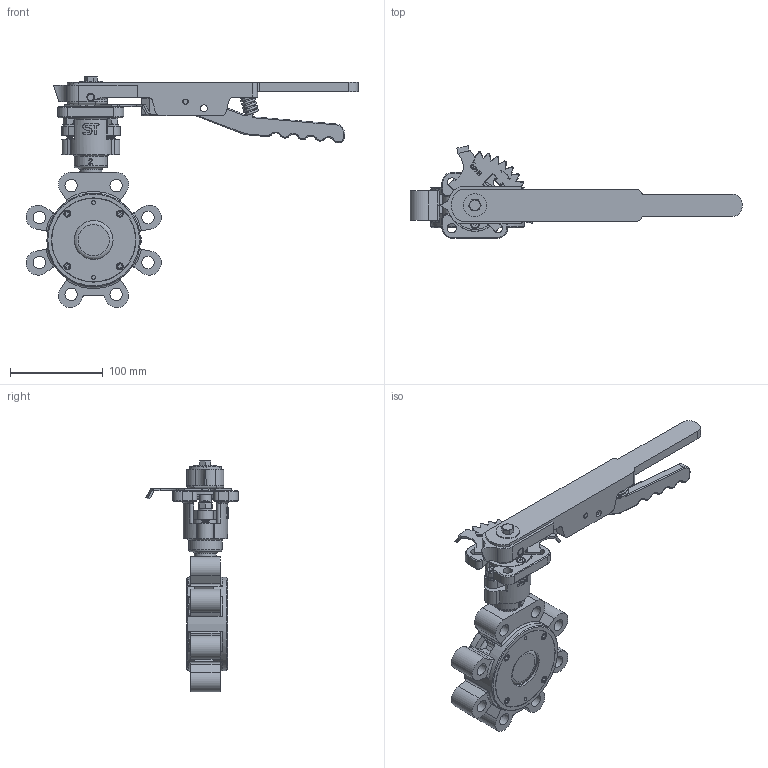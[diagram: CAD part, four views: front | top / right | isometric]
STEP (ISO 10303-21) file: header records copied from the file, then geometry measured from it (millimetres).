
FILE_DESCRIPTION(('Open CASCADE Model'),'2;1');
FILE_NAME('Open CASCADE Shape Model','2023-08-15T10:28:14',('Author'),( 'Open CASCADE'),'Open CASCADE STEP processor 7.3','Open CASCADE 7.3' ,'Unknown');
FILE_SCHEMA(('AUTOMOTIVE_DESIGN { 1 0 10303 214 1 1 1 1 }'));
Length unit declared in the file: millimetre
Products named in the file (36): Open CASCADE STEP translator 7.3 1; Open CASCADE STEP translator 7.3 1.1; Open CASCADE STEP translator 7.3 1.2; Open CASCADE STEP translator 7.3 1.3; Open CASCADE STEP translator 7.3 1.4; Open CASCADE STEP translator 7.3 1.5; Open CASCADE STEP translator 7.3 1.6; Open CASCADE STEP translator 7.3 1.7; Open CASCADE STEP translator 7.3 1.8; Open CASCADE STEP translator 7.3 1.9; Open CASCADE STEP translator 7.3 1.10; Open CASCADE STEP translator 7.3 1.11; Open CASCADE STEP translator 7.3 1.12; Open CASCADE STEP translator 7.3 1.13; Open CASCADE STEP translator 7.3 1.14; Open CASCADE STEP translator 7.3 1.15; Open CASCADE STEP translator 7.3 1.16; Open CASCADE STEP translator 7.3 1.17; Open CASCADE STEP translator 7.3 1.18; Open CASCADE STEP translator 7.3 1.19; Open CASCADE STEP translator 7.3 1.20; Open CASCADE STEP translator 7.3 1.21; Open CASCADE STEP translator 7.3 1.22; Open CASCADE STEP translator 7.3 1.23; Open CASCADE STEP translator 7.3 1.24; Open CASCADE STEP translator 7.3 1.25; Open CASCADE STEP translator 7.3 1.26; Open CASCADE STEP translator 7.3 1.27; Open CASCADE STEP translator 7.3 1.28; Open CASCADE STEP translator 7.3 1.29; Open CASCADE STEP translator 7.3 1.30; Open CASCADE STEP translator 7.3 1.31; Open CASCADE STEP translator 7.3 1.32; Open CASCADE STEP translator 7.3 1.33; Open CASCADE STEP translator 7.3 1.34; Open CASCADE STEP translator 7.3 1.35
Assembly tree (35 placements, depth 2):
  Open CASCADE STEP translator 7.3 1
    Open CASCADE STEP translator 7.3 1.1
    Open CASCADE STEP translator 7.3 1.2
    Open CASCADE STEP translator 7.3 1.3
    Open CASCADE STEP translator 7.3 1.4
    Open CASCADE STEP translator 7.3 1.5
    Open CASCADE STEP translator 7.3 1.6
    Open CASCADE STEP translator 7.3 1.7
    Open CASCADE STEP translator 7.3 1.8
    Open CASCADE STEP translator 7.3 1.9
    Open CASCADE STEP translator 7.3 1.10
    Open CASCADE STEP translator 7.3 1.11
    Open CASCADE STEP translator 7.3 1.12
    Open CASCADE STEP translator 7.3 1.13
    Open CASCADE STEP translator 7.3 1.14
    Open CASCADE STEP translator 7.3 1.15
    Open CASCADE STEP translator 7.3 1.16
    Open CASCADE STEP translator 7.3 1.17
    Open CASCADE STEP translator 7.3 1.18
    Open CASCADE STEP translator 7.3 1.19
    Open CASCADE STEP translator 7.3 1.20
    Open CASCADE STEP translator 7.3 1.21
    Open CASCADE STEP translator 7.3 1.22
    Open CASCADE STEP translator 7.3 1.23
    Open CASCADE STEP translator 7.3 1.24
    Open CASCADE STEP translator 7.3 1.25
    Open CASCADE STEP translator 7.3 1.26
    Open CASCADE STEP translator 7.3 1.27
    Open CASCADE STEP translator 7.3 1.28
    Open CASCADE STEP translator 7.3 1.29
    Open CASCADE STEP translator 7.3 1.30
    Open CASCADE STEP translator 7.3 1.31
    Open CASCADE STEP translator 7.3 1.32
    Open CASCADE STEP translator 7.3 1.33
    Open CASCADE STEP translator 7.3 1.34
    Open CASCADE STEP translator 7.3 1.35
Bounding box: 358.56 x 99.87 x 249.85 mm (x, y, z)
Volume: 696618.4 mm3; surface area: 242004 mm2
Topology: 35 solids, 35 shells, 1218 faces, 2891 edges, 1804 vertices
Faces by surface type: plane 531, cylinder 364, cone 155, torus 113, bspline 40, sphere 15
Full cylindrical faces by diameter (mm): 4.134 x2, 4.2 x2, 4.5 x8, 4.917 x1, 5 x2, 6 x7, 7 x4, 7.5 x7, 8 x10, 10 x10, 13 x6, 13.3 x1, 13.376 x8, 13.5 x1, 14 x1, 14.6 x2, 24 x1, 25 x1, 27.6 x2, 28 x4, 36 x1, 42 x1, 46 x1, 47.4 x1, 53.8 x1, 54.8 x1, 57.8 x1, 58 x1, 60 x1, 62 x2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
Entity records: 123838 total; most frequent: CARTESIAN_POINT 65206, DIRECTION 10929, ORIENTED_EDGE 5760, PCURVE 5760, DEFINITIONAL_REPRESENTATION 5760, LINE 5759, VECTOR 5759, EDGE_CURVE 2880
